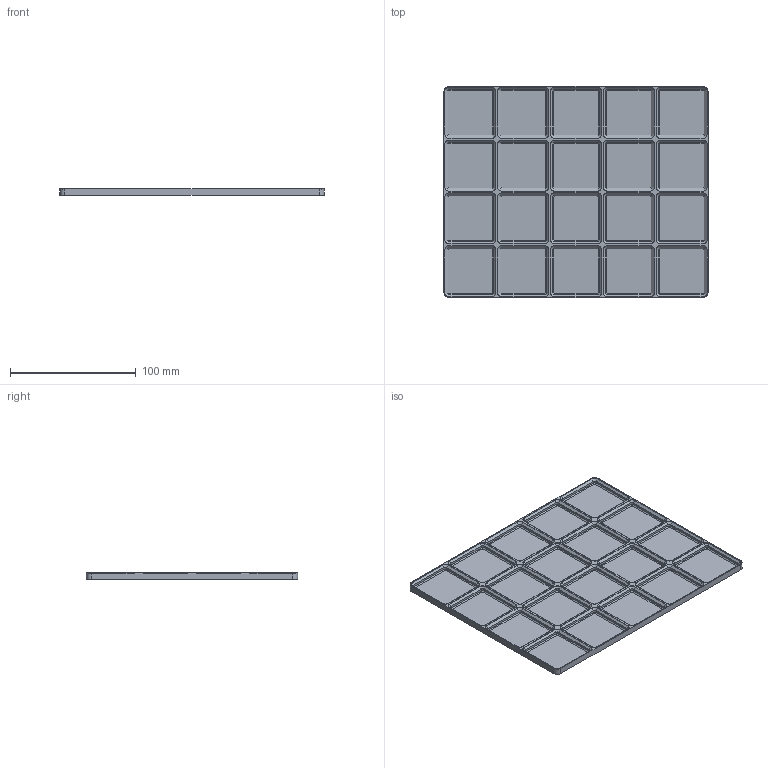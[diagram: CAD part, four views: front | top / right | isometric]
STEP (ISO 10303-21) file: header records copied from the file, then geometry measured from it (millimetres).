
FILE_DESCRIPTION(('Open CASCADE Model'),'2;1');
FILE_NAME('Open CASCADE Shape Model','2026-11-03T10:23:11',('Author'),( 'Open CASCADE'),'Open CASCADE STEP processor 8.0','build123d', 'Unknown');
FILE_SCHEMA(('AUTOMOTIVE_DESIGN { 1 0 10303 214 1 1 1 1 }'));
Length unit declared in the file: millimetre
Products named in the file (1): SOLID
Bounding box: 210 x 168 x 5.1 mm (x, y, z)
Volume: 52482.8 mm3; surface area: 83336.2 mm2
Topology: 1 solids, 1 shells, 670 faces, 1464 edges, 816 vertices
Faces by surface type: plane 346, cylinder 164, cone 160
Entity records: 34682 total; most frequent: CARTESIAN_POINT 8007, DIRECTION 4054, ORIENTED_EDGE 2928, PCURVE 2928, DEFINITIONAL_REPRESENTATION 2928, B_SPLINE_CURVE_WITH_KNOTS 2080, LINE 1736, VECTOR 1736
